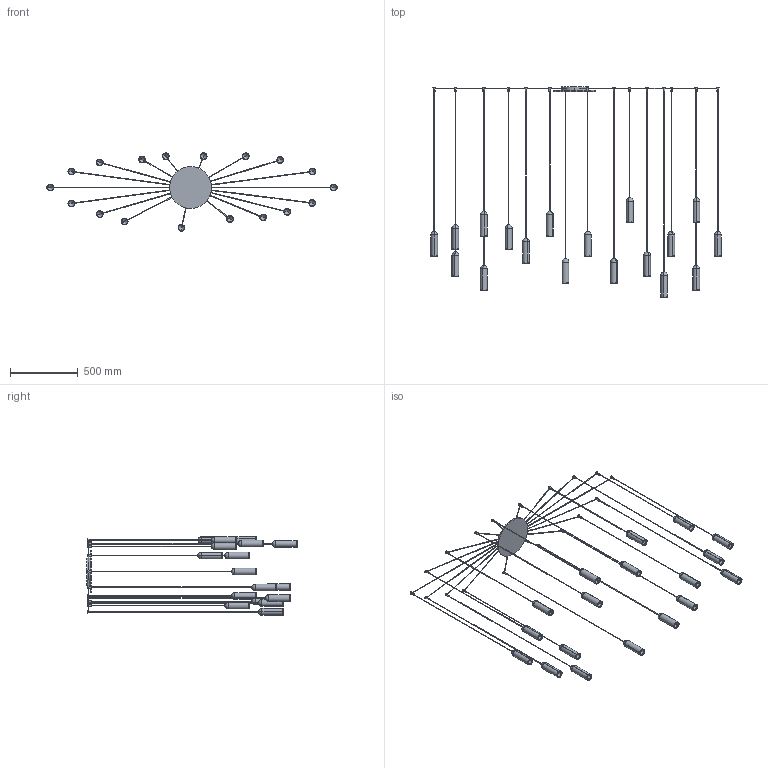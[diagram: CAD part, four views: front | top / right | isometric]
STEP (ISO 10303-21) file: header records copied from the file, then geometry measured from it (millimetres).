
FILE_DESCRIPTION (( 'STEP AP203' ), '1' );
FILE_NAME ('NANA4-00-NANUM_18 sospensione.STEP', '2025-05-05T14:39:47', ( '' ), ( '' ), 'SwSTEP 2.0', 'SolidWorks 2022', '' );
FILE_SCHEMA (( 'CONFIG_CONTROL_DESIGN' ));
Length unit declared in the file: millimetre
Products named in the file (11): NANUM_LAMPADA SINGOLA_H=1450; NANUM_LAMPADA SINGOLA_H=1900; Nanum_Rosone_NANUM_18 sospensione (3400)<A macchina>; NANUM_LAMPADA SINGOLA_H=1500; NANUM_LAMPADA SINGOLA_H=1700; NANUM_LAMPADA SINGOLA_H=1550; NANUM_LAMPADA SINGOLA_H=2000; NANUM_LAMPADA SINGOLA_H=1750; NANUM_LAMPADA SINGOLA_H=1800; NANA4-00-NANUM_18 sospensione; NANUM_LAMPADA SINGOLA_H=1600
Assembly tree (19 placements, depth 2):
  NANA4-00-NANUM_18 sospensione
    Nanum_Rosone_NANUM_18 sospensione (3400)<A macchina>
    NANUM_LAMPADA SINGOLA_H=1750  x4
    NANUM_LAMPADA SINGOLA_H=1800  x2
    NANUM_LAMPADA SINGOLA_H=1900  x2
    NANUM_LAMPADA SINGOLA_H=1700
    NANUM_LAMPADA SINGOLA_H=2000  x2
    NANUM_LAMPADA SINGOLA_H=1450
    NANUM_LAMPADA SINGOLA_H=1500  x2
    NANUM_LAMPADA SINGOLA_H=1600  x2
    NANUM_LAMPADA SINGOLA_H=1550  x2
Bounding box: 2146 x 1554.5 x 579.95 mm (x, y, z)
Volume: 3216843 mm3; surface area: 1674077.7 mm2
Topology: 55 solids, 55 shells, 663 faces, 1440 edges, 816 vertices
Faces by surface type: cylinder 336, plane 147, cone 72, sphere 72, torus 36
Entity records: 11137 total; most frequent: CARTESIAN_POINT 2203, DIRECTION 1786, ORIENTED_EDGE 1368, AXIS2_PLACEMENT_3D 783, EDGE_CURVE 684, VERTEX_POINT 420, EDGE_LOOP 412, CIRCLE 386
